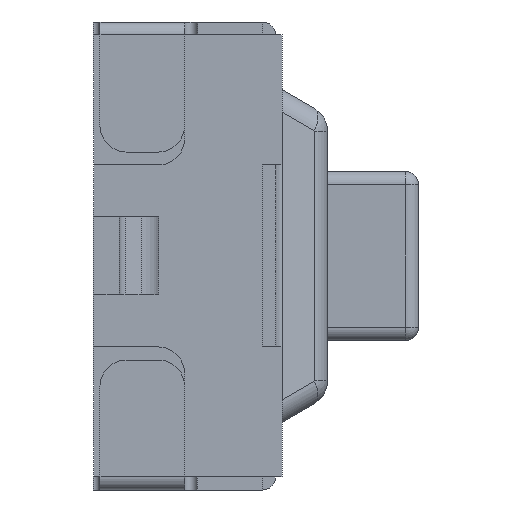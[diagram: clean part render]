
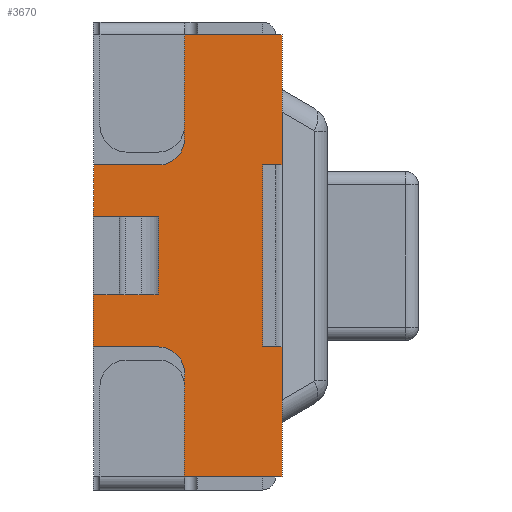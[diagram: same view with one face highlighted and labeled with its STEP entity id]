
A CAD part, left-side view. The second image highlights one B-rep face of the part: STEP entity #3670.
In plain terms, the highlighted planar face has unit normal (-1, 0, 0).
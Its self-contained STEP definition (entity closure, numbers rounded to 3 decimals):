
#155=DIRECTION('',(0.,0.,1.));
#156=VECTOR('',#155,1.4);
#157=CARTESIAN_POINT('',(-3.,0.,-0.7));
#158=LINE('',#157,#156);
#1203=DIRECTION('',(0.,-1.,0.));
#1204=VECTOR('',#1203,0.2);
#1205=CARTESIAN_POINT('',(-3.,1.,-0.3));
#1206=LINE('',#1205,#1204);
#1210=DIRECTION('',(0.,0.,1.));
#1211=VECTOR('',#1210,0.6);
#1212=CARTESIAN_POINT('',(-3.,0.8,-0.3));
#1213=LINE('',#1212,#1211);
#1217=DIRECTION('',(0.,-1.,0.));
#1218=VECTOR('',#1217,0.2);
#1219=CARTESIAN_POINT('',(-3.,1.,0.3));
#1220=LINE('',#1219,#1218);
#1224=DIRECTION('',(0.,0.,1.));
#1225=VECTOR('',#1224,0.6);
#1226=CARTESIAN_POINT('',(-3.,1.,-0.3));
#1227=LINE('',#1226,#1225);
#1231=DIRECTION('',(0.,-1.,0.));
#1232=VECTOR('',#1231,0.5);
#1233=CARTESIAN_POINT('',(-3.,1.3,0.7));
#1234=LINE('',#1233,#1232);
#1238=DIRECTION('',(0.,0.,1.));
#1239=VECTOR('',#1238,0.8);
#1240=CARTESIAN_POINT('',(-3.,0.6,0.9));
#1241=LINE('',#1240,#1239);
#1245=DIRECTION('',(0.,-1.,0.));
#1246=VECTOR('',#1245,0.15);
#1247=CARTESIAN_POINT('',(-3.,0.,-0.7));
#1248=LINE('',#1247,#1246);
#1252=DIRECTION('',(0.,1.,0.));
#1253=VECTOR('',#1252,0.75);
#1254=CARTESIAN_POINT('',(-3.,-0.15,-1.7));
#1255=LINE('',#1254,#1253);
#1259=DIRECTION('',(0.,0.,1.));
#1260=VECTOR('',#1259,0.8);
#1261=CARTESIAN_POINT('',(-3.,0.6,-1.7));
#1262=LINE('',#1261,#1260);
#1266=DIRECTION('',(0.,-1.,0.));
#1267=VECTOR('',#1266,0.5);
#1268=CARTESIAN_POINT('',(-3.,1.3,-0.7));
#1269=LINE('',#1268,#1267);
#1352=CARTESIAN_POINT('',(-3.,0.8,0.9));
#1353=DIRECTION('',(1.,0.,0.));
#1354=DIRECTION('',(0.,-1.,0.));
#1355=AXIS2_PLACEMENT_3D('',#1352,#1353,#1354);
#1403=DIRECTION('',(0.,0.,1.));
#1404=VECTOR('',#1403,1.4);
#1405=CARTESIAN_POINT('',(-3.,1.3,-0.7));
#1406=LINE('',#1405,#1404);
#1523=CARTESIAN_POINT('',(-3.,0.8,-0.9));
#1524=DIRECTION('',(1.,0.,0.));
#1525=DIRECTION('',(0.,0.,1.));
#1526=AXIS2_PLACEMENT_3D('',#1523,#1524,#1525);
#1653=DIRECTION('',(0.,0.,-1.));
#1654=VECTOR('',#1653,1.);
#1655=CARTESIAN_POINT('',(-3.,-0.15,-0.7));
#1656=LINE('',#1655,#1654);
#1702=DIRECTION('',(0.,0.,-1.));
#1703=VECTOR('',#1702,1.);
#1704=CARTESIAN_POINT('',(-3.,-0.15,1.7));
#1705=LINE('',#1704,#1703);
#1793=DIRECTION('',(0.,1.,0.));
#1794=VECTOR('',#1793,0.75);
#1795=CARTESIAN_POINT('',(-3.,-0.15,1.7));
#1796=LINE('',#1795,#1794);
#1836=DIRECTION('',(0.,-1.,0.));
#1837=VECTOR('',#1836,0.15);
#1838=CARTESIAN_POINT('',(-3.,0.,0.7));
#1839=LINE('',#1838,#1837);
#2032=CARTESIAN_POINT('',(-3.,-0.15,-1.7));
#2034=VERTEX_POINT('',#2032);
#2038=CARTESIAN_POINT('',(-3.,-0.15,-0.7));
#2039=VERTEX_POINT('',#2038);
#2048=CARTESIAN_POINT('',(-3.,-0.15,1.7));
#2049=CARTESIAN_POINT('',(-3.,-0.15,0.7));
#2050=VERTEX_POINT('',#2048);
#2051=VERTEX_POINT('',#2049);
#2066=CARTESIAN_POINT('',(-3.,0.,-0.7));
#2067=VERTEX_POINT('',#2066);
#2074=CARTESIAN_POINT('',(-3.,0.,0.7));
#2076=VERTEX_POINT('',#2074);
#2096=CARTESIAN_POINT('',(-3.,1.3,0.7));
#2097=VERTEX_POINT('',#2096);
#2098=CARTESIAN_POINT('',(-3.,1.3,-0.7));
#2100=VERTEX_POINT('',#2098);
#2109=CARTESIAN_POINT('',(-3.,0.6,-1.7));
#2111=VERTEX_POINT('',#2109);
#2112=CARTESIAN_POINT('',(-3.,0.6,1.7));
#2114=VERTEX_POINT('',#2112);
#2160=CARTESIAN_POINT('',(-3.,1.,-0.3));
#2161=CARTESIAN_POINT('',(-3.,0.8,-0.3));
#2162=VERTEX_POINT('',#2160);
#2163=VERTEX_POINT('',#2161);
#2164=CARTESIAN_POINT('',(-3.,1.,0.3));
#2165=CARTESIAN_POINT('',(-3.,0.8,0.3));
#2166=VERTEX_POINT('',#2164);
#2167=VERTEX_POINT('',#2165);
#2241=CARTESIAN_POINT('',(-3.,0.6,-0.9));
#2243=VERTEX_POINT('',#2241);
#2246=CARTESIAN_POINT('',(-3.,0.8,-0.7));
#2247=VERTEX_POINT('',#2246);
#2252=CARTESIAN_POINT('',(-3.,0.6,0.9));
#2253=VERTEX_POINT('',#2252);
#2254=CARTESIAN_POINT('',(-3.,0.8,0.7));
#2255=VERTEX_POINT('',#2254);
#3629=CARTESIAN_POINT('',(-3.,0.,-1.7));
#3630=DIRECTION('',(-1.,0.,0.));
#3631=DIRECTION('',(0.,0.,1.));
#3632=AXIS2_PLACEMENT_3D('',#3629,#3630,#3631);
#3633=PLANE('',#3632);
#3635=ORIENTED_EDGE('',*,*,#3634,.T.);
#3637=ORIENTED_EDGE('',*,*,#3636,.F.);
#3639=ORIENTED_EDGE('',*,*,#3638,.T.);
#3641=ORIENTED_EDGE('',*,*,#3640,.F.);
#3643=ORIENTED_EDGE('',*,*,#3642,.T.);
#3645=ORIENTED_EDGE('',*,*,#3644,.F.);
#3646=ORIENTED_EDGE('',*,*,#2287,.F.);
#3648=ORIENTED_EDGE('',*,*,#3647,.T.);
#3650=ORIENTED_EDGE('',*,*,#3649,.T.);
#3652=ORIENTED_EDGE('',*,*,#3651,.T.);
#3654=ORIENTED_EDGE('',*,*,#3653,.T.);
#3656=ORIENTED_EDGE('',*,*,#3655,.F.);
#3658=ORIENTED_EDGE('',*,*,#3657,.F.);
#3660=ORIENTED_EDGE('',*,*,#3659,.T.);
#3661=EDGE_LOOP('',(#3635,#3637,#3639,#3641,#3643,#3645,#3646,#3648,#3650,#3652,
#3654,#3656,#3658,#3660));
#3662=FACE_OUTER_BOUND('',#3661,.F.);
#3663=ORIENTED_EDGE('',*,*,#3406,.T.);
#3665=ORIENTED_EDGE('',*,*,#3664,.T.);
#3666=ORIENTED_EDGE('',*,*,#3553,.F.);
#3667=ORIENTED_EDGE('',*,*,#3474,.F.);
#3668=EDGE_LOOP('',(#3663,#3665,#3666,#3667));
#3669=FACE_BOUND('',#3668,.F.);
#1356=CIRCLE('',#1355,0.2);
#1527=CIRCLE('',#1526,0.2);
#2287=EDGE_CURVE('',#2067,#2076,#158,.T.);
#3406=EDGE_CURVE('',#2162,#2163,#1206,.T.);
#3474=EDGE_CURVE('',#2162,#2166,#1227,.T.);
#3553=EDGE_CURVE('',#2166,#2167,#1220,.T.);
#3634=EDGE_CURVE('',#2097,#2255,#1234,.T.);
#3636=EDGE_CURVE('',#2253,#2255,#1356,.T.);
#3638=EDGE_CURVE('',#2253,#2114,#1241,.T.);
#3640=EDGE_CURVE('',#2050,#2114,#1796,.T.);
#3642=EDGE_CURVE('',#2050,#2051,#1705,.T.);
#3644=EDGE_CURVE('',#2076,#2051,#1839,.T.);
#3647=EDGE_CURVE('',#2067,#2039,#1248,.T.);
#3649=EDGE_CURVE('',#2039,#2034,#1656,.T.);
#3651=EDGE_CURVE('',#2034,#2111,#1255,.T.);
#3653=EDGE_CURVE('',#2111,#2243,#1262,.T.);
#3655=EDGE_CURVE('',#2247,#2243,#1527,.T.);
#3657=EDGE_CURVE('',#2100,#2247,#1269,.T.);
#3659=EDGE_CURVE('',#2100,#2097,#1406,.T.);
#3664=EDGE_CURVE('',#2163,#2167,#1213,.T.);
#3670=ADVANCED_FACE('',(#3662,#3669),#3633,.T.);
